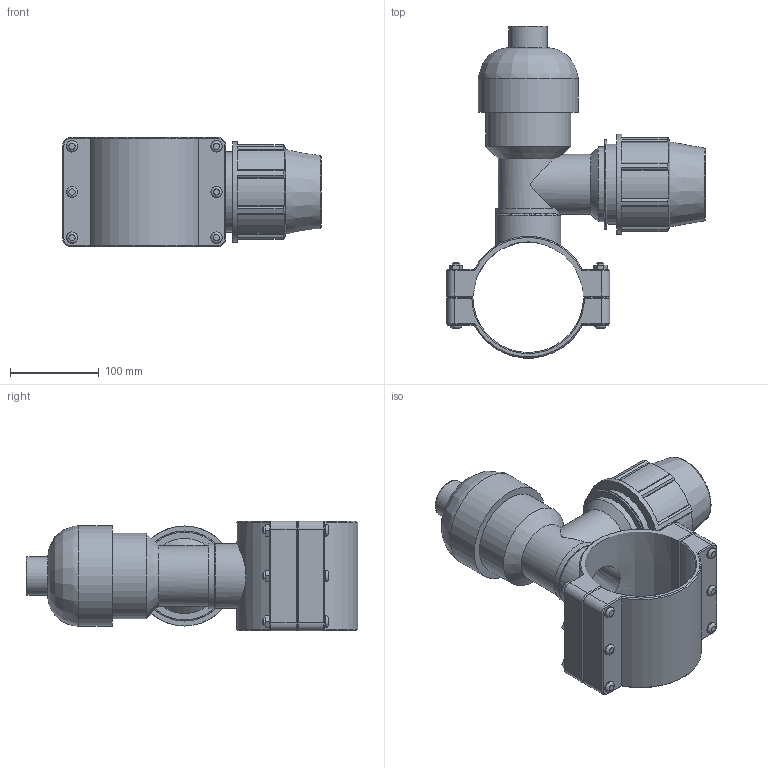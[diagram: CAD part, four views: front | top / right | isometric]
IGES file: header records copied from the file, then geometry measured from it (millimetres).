
Global section: file name: 186800125063.ipt; native system: Autodesk Inventor 2015; preprocessor: unknown; author: KIM; date: 20170618.094030; units: millimetre
Bounding box: 292 x 375 x 124 mm (x, y, z)
Volume: 2397711.2 mm3; surface area: 338974.7 mm2
Topology: 1 solids, 1 shells, 255 faces, 639 edges, 413 vertices
Faces by surface type: plane 154, cylinder 50, cone 31, revolution 20
Full cylindrical faces by diameter (mm): 8 x6, 13 x12, 43.598 x1, 67.8 x1, 73.653 x1, 84.75 x1, 90.4 x1, 96.315 x1, 101.7 x1, 113 x1, 113.312 x1
